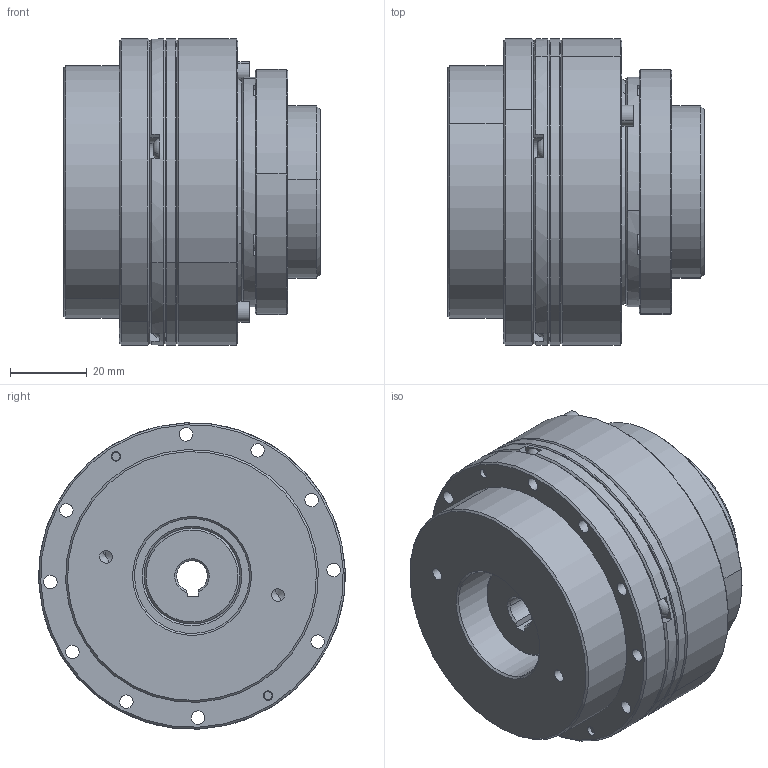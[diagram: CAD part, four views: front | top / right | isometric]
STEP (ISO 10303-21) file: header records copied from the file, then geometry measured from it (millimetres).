
FILE_DESCRIPTION (( 'STEP AP214' ), '1' );
FILE_NAME ('LHSG-17-XXX-RDP-8-25-30-46-M4.step', '2022-08-03T03:58:19', ( 'Sysceo.com' ), ( '' ), 'SwSTEP 2.0', 'SolidWorks 2020', '' );
FILE_SCHEMA (( 'AUTOMOTIVE_DESIGN' ));
Length unit declared in the file: millimetre
Products named in the file (1): LHSG-17-XXX-RDP-8-25-30-46-M4
Bounding box: 67 x 79.93 x 79.93 mm (x, y, z)
Volume: 196474.3 mm3; surface area: 124689.3 mm2
Topology: 91 solids, 91 shells, 1826 faces, 4334 edges, 2534 vertices
Faces by surface type: cylinder 597, plane 559, cone 350, sphere 192, torus 128
Entity records: 72044 total; most frequent: DIRECTION 9654, CARTESIAN_POINT 9045, ORIENTED_EDGE 7932, AXIS2_PLACEMENT_3D 3997, EDGE_CURVE 3966, VERTEX_POINT 2442, EDGE_LOOP 2238, CIRCLE 2170
